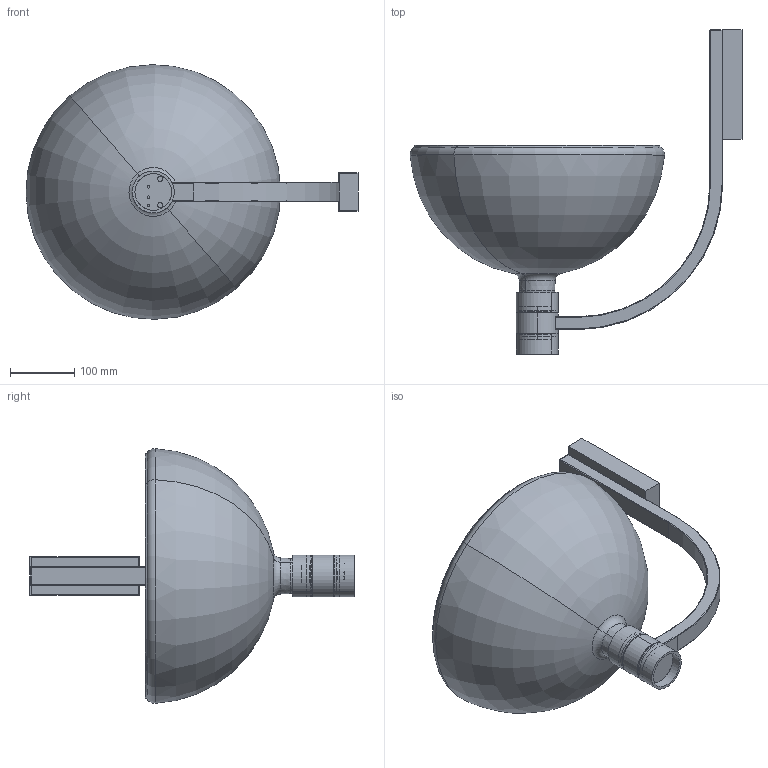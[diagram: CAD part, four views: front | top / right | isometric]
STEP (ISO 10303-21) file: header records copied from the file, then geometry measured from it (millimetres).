
FILE_DESCRIPTION (( 'STEP AP203' ), '1' );
FILE_NAME ('Assieme applique braccio.STEP', '2022-11-07T17:26:07', ( '' ), ( '' ), 'SwSTEP 2.0', 'SolidWorks 2016', '' );
FILE_SCHEMA (( 'CONFIG_CONTROL_DESIGN' ));
Length unit declared in the file: millimetre
Products named in the file (17): 010ALB704700; 061ALB700200; 010ALB704800; 019COM000205; rondella dentellata d 3; 003558800004_DADO ESAG M4 NIBI; rosone; 001884200004_ROND DENT EST D4  ZIBI 8842-A; 761ALBEHW121; 010ALB704300; vite tc m3x12 croce; 744ALBEHW151; dado M10_basso; 010ALB704400; Assieme applique braccio; 010ALB704500; 010ALB704200_braccio applique
Assembly tree (19 placements, depth 3):
  Assieme applique braccio
    010ALB704200_braccio applique
    744ALBEHW151
      010ALB704300
      010ALB704800
      010ALB704500
      010ALB704400
    761ALBEHW121
      010ALB704700
      019COM000205
      dado M10_basso
      010ALB704400
      061ALB700200
      vite tc m3x12 croce  x2
      rondella dentellata d 3  x2
      001884200004_ROND DENT EST D4  ZIBI 8842-A
      003558800004_DADO ESAG M4 NIBI
    rosone
Bounding box: 514.93 x 503 x 394.86 mm (x, y, z)
Volume: 1265159.1 mm3; surface area: 747536.6 mm2
Topology: 25 solids, 25 shells, 631 faces, 1598 edges, 1024 vertices
Faces by surface type: plane 379, cylinder 166, torus 40, cone 40, sphere 4, bspline 2
Entity records: 16971 total; most frequent: CARTESIAN_POINT 3648, ORIENTED_EDGE 2402, DIRECTION 2377, EDGE_CURVE 1201, AXIS2_PLACEMENT_3D 830, VERTEX_POINT 767, VECTOR 717, LINE 717
